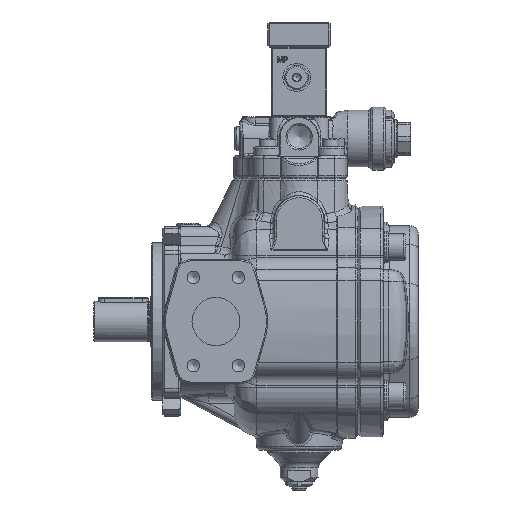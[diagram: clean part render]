
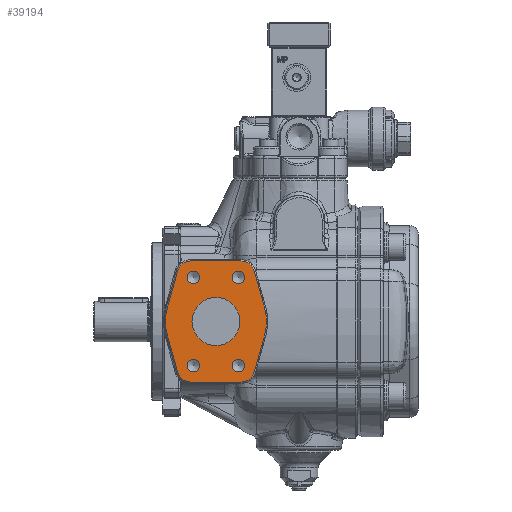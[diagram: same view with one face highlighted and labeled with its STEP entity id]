
A CAD part, left-side view. The second image highlights one B-rep face of the part: STEP entity #39194.
In plain terms, the highlighted planar face has unit normal (-1, 0, 0).
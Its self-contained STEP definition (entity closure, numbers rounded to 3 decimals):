
#1685=FACE_BOUND('',#10704,.T.);
#1686=FACE_BOUND('',#10705,.T.);
#1687=FACE_BOUND('',#10706,.T.);
#1688=FACE_BOUND('',#10707,.T.);
#1689=FACE_BOUND('',#10708,.T.);
#3142=LINE('',#66974,#5433);
#3147=LINE('',#66988,#5438);
#3151=LINE('',#67002,#5442);
#3155=LINE('',#67014,#5446);
#3159=LINE('',#67026,#5450);
#3163=LINE('',#67038,#5454);
#5433=VECTOR('',#50150,10.);
#5438=VECTOR('',#50163,10.);
#5442=VECTOR('',#50177,10.);
#5446=VECTOR('',#50189,10.);
#5450=VECTOR('',#50201,10.);
#5454=VECTOR('',#50213,10.);
#6884=PLANE('',#42557);
#8351=FACE_OUTER_BOUND('',#10703,.T.);
#10703=EDGE_LOOP('',(#30354,#30355,#30356,#30357,#30358,#30359,#30360,#30361,
#30362,#30363,#30364,#30365));
#10704=EDGE_LOOP('',(#30366));
#10705=EDGE_LOOP('',(#30367,#30368));
#10706=EDGE_LOOP('',(#30369,#30370));
#10707=EDGE_LOOP('',(#30371,#30372));
#10708=EDGE_LOOP('',(#30373,#30374));
#13895=CIRCLE('',#42522,11.);
#13897=CIRCLE('',#42526,40.);
#13900=CIRCLE('',#42531,11.);
#13902=CIRCLE('',#42535,11.);
#13904=CIRCLE('',#42539,40.);
#13906=CIRCLE('',#42543,11.);
#13911=CIRCLE('',#42558,19.);
#13912=CIRCLE('',#42559,5.053);
#13913=CIRCLE('',#42560,5.053);
#13914=CIRCLE('',#42561,5.053);
#13915=CIRCLE('',#42562,5.053);
#13916=CIRCLE('',#42563,5.053);
#13917=CIRCLE('',#42564,5.053);
#13918=CIRCLE('',#42565,5.053);
#13919=CIRCLE('',#42566,5.053);
#16899=VERTEX_POINT('',#66971);
#16900=VERTEX_POINT('',#66973);
#16903=VERTEX_POINT('',#66980);
#16905=VERTEX_POINT('',#66986);
#16907=VERTEX_POINT('',#66992);
#16910=VERTEX_POINT('',#67000);
#16912=VERTEX_POINT('',#67006);
#16914=VERTEX_POINT('',#67012);
#16916=VERTEX_POINT('',#67018);
#16918=VERTEX_POINT('',#67024);
#16920=VERTEX_POINT('',#67030);
#16922=VERTEX_POINT('',#67036);
#16962=VERTEX_POINT('',#67244);
#16963=VERTEX_POINT('',#67246);
#16964=VERTEX_POINT('',#67247);
#16965=VERTEX_POINT('',#67250);
#16966=VERTEX_POINT('',#67251);
#16967=VERTEX_POINT('',#67254);
#16968=VERTEX_POINT('',#67255);
#16969=VERTEX_POINT('',#67258);
#16970=VERTEX_POINT('',#67259);
#21559=EDGE_CURVE('',#16899,#16900,#3142,.T.);
#21563=EDGE_CURVE('',#16903,#16899,#13895,.T.);
#21566=EDGE_CURVE('',#16905,#16903,#3147,.T.);
#21569=EDGE_CURVE('',#16907,#16905,#13897,.T.);
#21573=EDGE_CURVE('',#16910,#16907,#3151,.T.);
#21576=EDGE_CURVE('',#16912,#16910,#13900,.T.);
#21579=EDGE_CURVE('',#16914,#16912,#3155,.T.);
#21582=EDGE_CURVE('',#16916,#16914,#13902,.T.);
#21585=EDGE_CURVE('',#16918,#16916,#3159,.T.);
#21588=EDGE_CURVE('',#16920,#16918,#13904,.T.);
#21591=EDGE_CURVE('',#16922,#16920,#3163,.T.);
#21593=EDGE_CURVE('',#16900,#16922,#13906,.T.);
#21641=EDGE_CURVE('',#16962,#16962,#13911,.T.);
#21642=EDGE_CURVE('',#16963,#16964,#13912,.T.);
#21643=EDGE_CURVE('',#16964,#16963,#13913,.T.);
#21644=EDGE_CURVE('',#16965,#16966,#13914,.T.);
#21645=EDGE_CURVE('',#16966,#16965,#13915,.T.);
#21646=EDGE_CURVE('',#16967,#16968,#13916,.T.);
#21647=EDGE_CURVE('',#16968,#16967,#13917,.T.);
#21648=EDGE_CURVE('',#16969,#16970,#13918,.T.);
#21649=EDGE_CURVE('',#16970,#16969,#13919,.T.);
#30354=ORIENTED_EDGE('',*,*,#21559,.F.);
#30355=ORIENTED_EDGE('',*,*,#21563,.F.);
#30356=ORIENTED_EDGE('',*,*,#21566,.F.);
#30357=ORIENTED_EDGE('',*,*,#21569,.F.);
#30358=ORIENTED_EDGE('',*,*,#21573,.F.);
#30359=ORIENTED_EDGE('',*,*,#21576,.F.);
#30360=ORIENTED_EDGE('',*,*,#21579,.F.);
#30361=ORIENTED_EDGE('',*,*,#21582,.F.);
#30362=ORIENTED_EDGE('',*,*,#21585,.F.);
#30363=ORIENTED_EDGE('',*,*,#21588,.F.);
#30364=ORIENTED_EDGE('',*,*,#21591,.F.);
#30365=ORIENTED_EDGE('',*,*,#21593,.F.);
#30366=ORIENTED_EDGE('',*,*,#21641,.T.);
#30367=ORIENTED_EDGE('',*,*,#21642,.T.);
#30368=ORIENTED_EDGE('',*,*,#21643,.T.);
#30369=ORIENTED_EDGE('',*,*,#21644,.T.);
#30370=ORIENTED_EDGE('',*,*,#21645,.T.);
#30371=ORIENTED_EDGE('',*,*,#21646,.T.);
#30372=ORIENTED_EDGE('',*,*,#21647,.T.);
#30373=ORIENTED_EDGE('',*,*,#21648,.T.);
#30374=ORIENTED_EDGE('',*,*,#21649,.T.);
#39194=ADVANCED_FACE('',(#8351,#1685,#1686,#1687,#1688,#1689),#6884,.F.);
#42522=AXIS2_PLACEMENT_3D('',#66982,#50156,#50157);
#42526=AXIS2_PLACEMENT_3D('',#66994,#50168,#50169);
#42531=AXIS2_PLACEMENT_3D('',#67008,#50182,#50183);
#42535=AXIS2_PLACEMENT_3D('',#67020,#50194,#50195);
#42539=AXIS2_PLACEMENT_3D('',#67032,#50206,#50207);
#42543=AXIS2_PLACEMENT_3D('',#67041,#50217,#50218);
#42557=AXIS2_PLACEMENT_3D('',#67243,#50260,#50261);
#42558=AXIS2_PLACEMENT_3D('',#67245,#50262,#50263);
#42559=AXIS2_PLACEMENT_3D('',#67248,#50264,#50265);
#42560=AXIS2_PLACEMENT_3D('',#67249,#50266,#50267);
#42561=AXIS2_PLACEMENT_3D('',#67252,#50268,#50269);
#42562=AXIS2_PLACEMENT_3D('',#67253,#50270,#50271);
#42563=AXIS2_PLACEMENT_3D('',#67256,#50272,#50273);
#42564=AXIS2_PLACEMENT_3D('',#67257,#50274,#50275);
#42565=AXIS2_PLACEMENT_3D('',#67260,#50276,#50277);
#42566=AXIS2_PLACEMENT_3D('',#67261,#50278,#50279);
#50150=DIRECTION('',(0.,1.,0.));
#50156=DIRECTION('center_axis',(1.,0.,0.));
#50157=DIRECTION('ref_axis',(0.,-0.964,-0.267));
#50163=DIRECTION('',(0.,0.267,-0.964));
#50168=DIRECTION('center_axis',(1.,0.,0.));
#50169=DIRECTION('ref_axis',(0.,-0.964,0.267));
#50177=DIRECTION('',(0.,-0.267,-0.964));
#50182=DIRECTION('center_axis',(1.,0.,0.));
#50183=DIRECTION('ref_axis',(0.,0.,1.));
#50189=DIRECTION('',(0.,-1.,0.));
#50194=DIRECTION('center_axis',(1.,0.,0.));
#50195=DIRECTION('ref_axis',(0.,0.964,0.267));
#50201=DIRECTION('',(0.,-0.267,0.964));
#50206=DIRECTION('center_axis',(1.,0.,0.));
#50207=DIRECTION('ref_axis',(0.,0.964,-0.267));
#50213=DIRECTION('',(0.,0.267,0.964));
#50217=DIRECTION('center_axis',(1.,0.,0.));
#50218=DIRECTION('ref_axis',(0.,0.,-1.));
#50260=DIRECTION('center_axis',(1.,0.,0.));
#50261=DIRECTION('ref_axis',(0.,0.,-1.));
#50262=DIRECTION('center_axis',(1.,0.,0.));
#50263=DIRECTION('ref_axis',(0.,-1.,0.));
#50264=DIRECTION('center_axis',(1.,0.,0.));
#50265=DIRECTION('ref_axis',(0.,0.,1.));
#50266=DIRECTION('center_axis',(1.,0.,0.));
#50267=DIRECTION('ref_axis',(0.,0.,1.));
#50268=DIRECTION('center_axis',(1.,0.,0.));
#50269=DIRECTION('ref_axis',(0.,0.,1.));
#50270=DIRECTION('center_axis',(1.,0.,0.));
#50271=DIRECTION('ref_axis',(0.,0.,1.));
#50272=DIRECTION('center_axis',(1.,0.,0.));
#50273=DIRECTION('ref_axis',(0.,0.,1.));
#50274=DIRECTION('center_axis',(1.,0.,0.));
#50275=DIRECTION('ref_axis',(0.,0.,1.));
#50276=DIRECTION('center_axis',(1.,0.,0.));
#50277=DIRECTION('ref_axis',(0.,0.,1.));
#50278=DIRECTION('center_axis',(1.,0.,0.));
#50279=DIRECTION('ref_axis',(0.,0.,1.));
#66971=CARTESIAN_POINT('',(-98.542,9.928,-57.476));
#66973=CARTESIAN_POINT('',(-98.542,49.628,-57.476));
#66974=CARTESIAN_POINT('',(-98.542,19.853,-57.476));
#66980=CARTESIAN_POINT('',(-98.542,-0.673,-49.41));
#66982=CARTESIAN_POINT('Origin',(-98.542,9.928,-46.476));
#66986=CARTESIAN_POINT('',(-98.542,-8.772,-20.145));
#66988=CARTESIAN_POINT('',(-98.542,-8.772,-20.145));
#66992=CARTESIAN_POINT('',(-98.542,-8.772,1.194));
#66994=CARTESIAN_POINT('Origin',(-98.542,29.778,-9.476));
#67000=CARTESIAN_POINT('',(-98.542,-0.673,30.458));
#67002=CARTESIAN_POINT('',(-98.542,-4.723,15.826));
#67006=CARTESIAN_POINT('',(-98.542,9.928,38.524));
#67008=CARTESIAN_POINT('Origin',(-98.542,9.928,27.524));
#67012=CARTESIAN_POINT('',(-98.542,49.628,38.524));
#67014=CARTESIAN_POINT('',(-98.542,39.703,38.524));
#67018=CARTESIAN_POINT('',(-98.542,60.23,30.458));
#67020=CARTESIAN_POINT('Origin',(-98.542,49.628,27.524));
#67024=CARTESIAN_POINT('',(-98.542,68.329,1.194));
#67026=CARTESIAN_POINT('',(-98.542,68.329,1.194));
#67030=CARTESIAN_POINT('',(-98.542,68.329,-20.145));
#67032=CARTESIAN_POINT('Origin',(-98.542,29.778,-9.476));
#67036=CARTESIAN_POINT('',(-98.542,60.23,-49.41));
#67038=CARTESIAN_POINT('',(-98.542,64.279,-34.777));
#67041=CARTESIAN_POINT('Origin',(-98.542,49.628,-46.476));
#67243=CARTESIAN_POINT('Origin',(-98.542,29.778,-9.476));
#67244=CARTESIAN_POINT('',(-98.542,48.778,-9.476));
#67245=CARTESIAN_POINT('Origin',(-98.542,29.778,-9.476));
#67246=CARTESIAN_POINT('',(-98.542,47.628,-39.373));
#67247=CARTESIAN_POINT('',(-98.542,47.628,-49.479));
#67248=CARTESIAN_POINT('Origin',(-98.542,47.628,-44.426));
#67249=CARTESIAN_POINT('Origin',(-98.542,47.628,-44.426));
#67250=CARTESIAN_POINT('',(-98.542,11.928,30.527));
#67251=CARTESIAN_POINT('',(-98.542,11.928,20.421));
#67252=CARTESIAN_POINT('Origin',(-98.542,11.928,25.474));
#67253=CARTESIAN_POINT('Origin',(-98.542,11.928,25.474));
#67254=CARTESIAN_POINT('',(-98.542,47.628,30.527));
#67255=CARTESIAN_POINT('',(-98.542,47.628,20.421));
#67256=CARTESIAN_POINT('Origin',(-98.542,47.628,25.474));
#67257=CARTESIAN_POINT('Origin',(-98.542,47.628,25.474));
#67258=CARTESIAN_POINT('',(-98.542,11.928,-39.373));
#67259=CARTESIAN_POINT('',(-98.542,11.928,-49.479));
#67260=CARTESIAN_POINT('Origin',(-98.542,11.928,-44.426));
#67261=CARTESIAN_POINT('Origin',(-98.542,11.928,-44.426));
